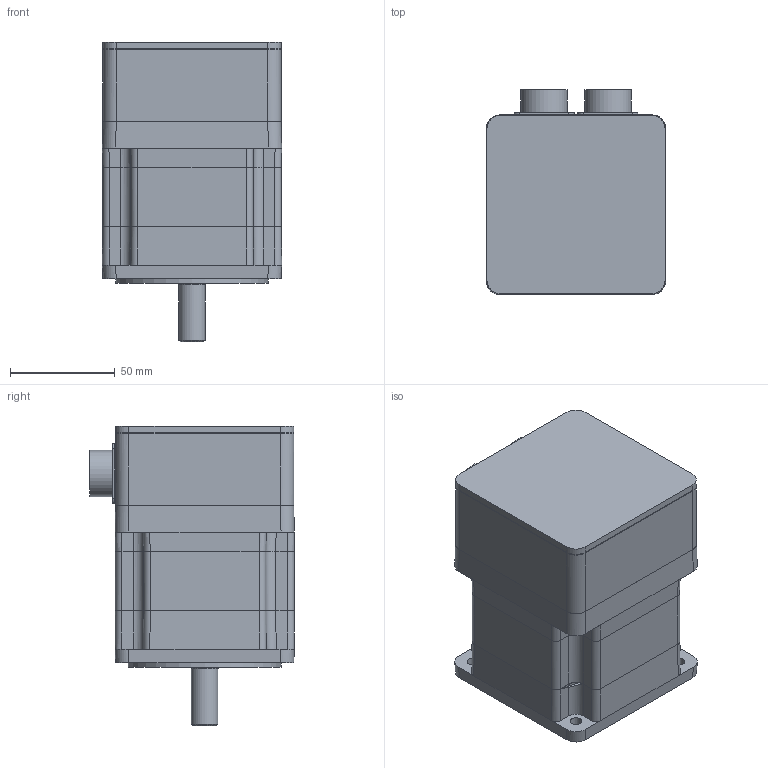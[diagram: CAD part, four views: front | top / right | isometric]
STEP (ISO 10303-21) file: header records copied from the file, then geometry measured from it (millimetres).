
FILE_DESCRIPTION((''),'2;1');
FILE_NAME('C:\CAD_work\Dummy_Modeling_Project_02-12-05\3D MODELS\BE341_MS_TQ.stp','2005-12-20T16:10:25',('jevans'),(''),'Autodesk Inventor 10','Autodesk Inventor 10','');
FILE_SCHEMA(('AUTOMOTIVE_DESIGN { 1 0 10303 214 1 1 1 1 }'));
Length unit declared in the file: inch
Products named in the file (1): BE34_MS_TQ
Bounding box: 85.66 x 97.77 x 143.13 mm (x, y, z)
Volume: 777173.8 mm3; surface area: 69755.3 mm2
Topology: 4 solids, 4 shells, 304 faces, 724 edges, 448 vertices
Faces by surface type: plane 133, cylinder 122, bspline 31, sphere 12, cone 6
Full cylindrical faces by diameter (mm): 1.905 x26, 2.5 x2, 2.54 x4, 12.7 x1, 14.994 x1, 15 x1, 19.177 x1, 22.225 x1, 32 x1, 32.007 x1, 35.001 x1, 36.779 x1, 37.109 x1, 41.326 x3, 73.025 x1
Entity records: 8518 total; most frequent: CARTESIAN_POINT 1785, DIRECTION 1448, ORIENTED_EDGE 1242, EDGE_CURVE 621, AXIS2_PLACEMENT_3D 553, VERTEX_POINT 429, EDGE_LOOP 424, VECTOR 342
